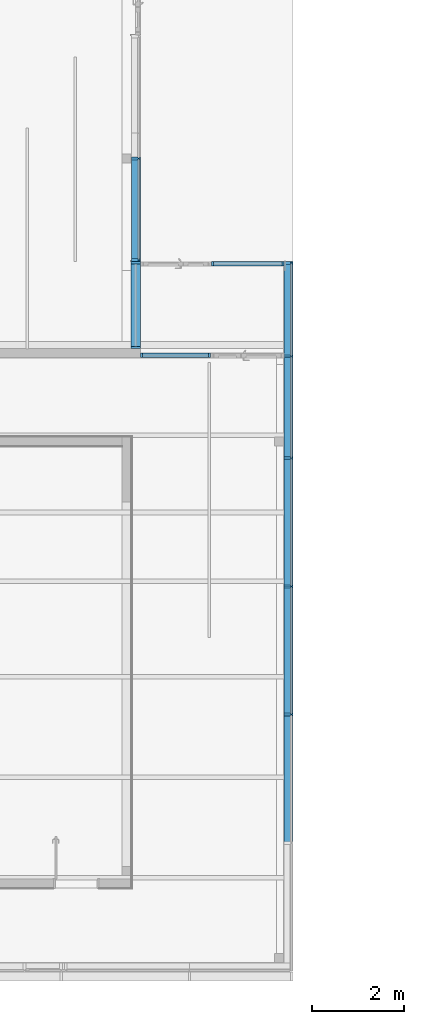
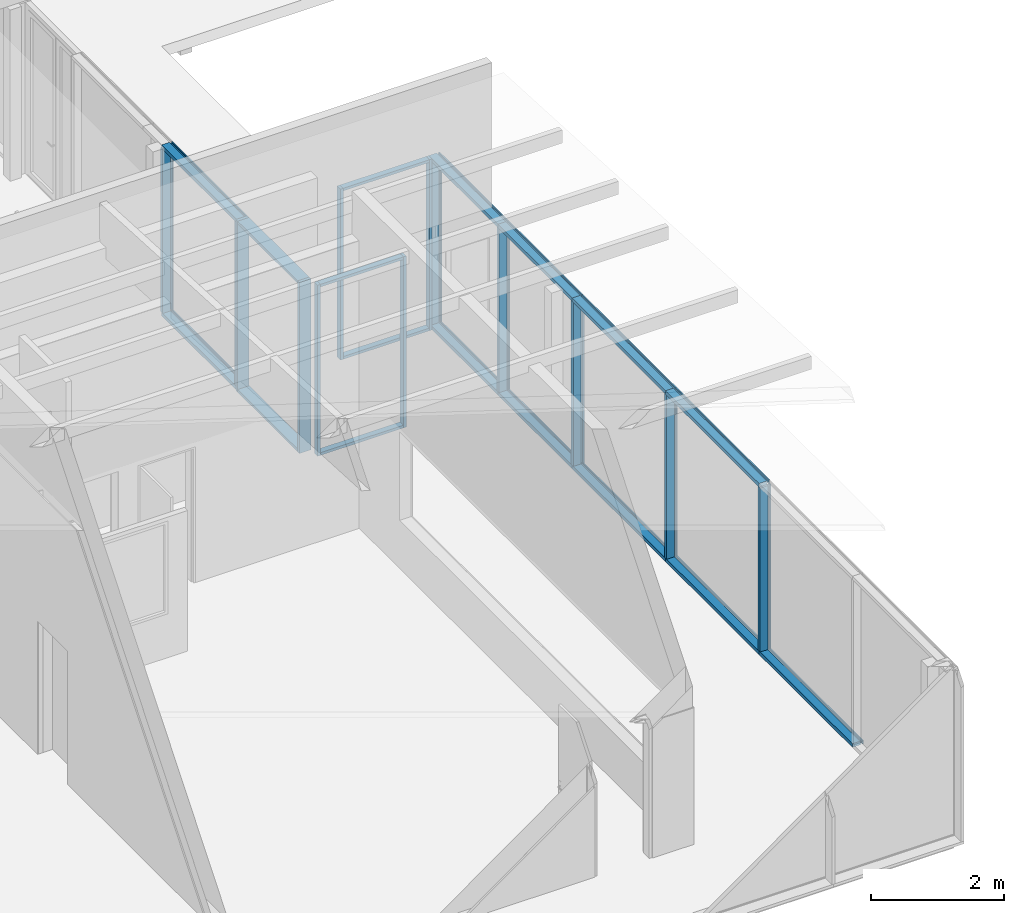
# One storey, part 9 of 240: 30 members, 5 elements without a shape of their own.
"""IFC2X3 building model written with IfcOpenShell, lengths in centimetres."""

from ifc_helpers import new_model, entity, si_unit, converted_unit, derived_unit, direction, frame, origin, origin_2d_with_axis, place, context, subcontext, project, spatial, polyline, rectangle, outline, extrude, source, transform, mapped, material, type_object, type_shapes, element, aggregate, save


model = new_model("IFC2X3")

# Units and contexts
model_context = context("Model", 3, precision=0.001, world=origin(), true_north=direction((6.12303176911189e-17, 1.0)))
body_context = subcontext(model_context, "Body", "Model", "MODEL_VIEW")
ifc_project = project(units=[si_unit("LENGTHUNIT", "METRE", prefix="CENTI"), si_unit("AREAUNIT", "SQUARE_METRE"), si_unit("VOLUMEUNIT", "CUBIC_METRE"), converted_unit("PLANEANGLEUNIT", "DEGREE", entity("IfcRatioMeasure", 0.0174532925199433), si_unit("PLANEANGLEUNIT", "RADIAN"), dimensions=[0, 0, 0, 0, 0, 0, 0]), si_unit("MASSUNIT", "GRAM", prefix="KILO"), derived_unit("MASSDENSITYUNIT", [(si_unit("MASSUNIT", "GRAM", prefix="KILO"), 1), (si_unit("LENGTHUNIT", "METRE"), -3)]), si_unit("TIMEUNIT", "SECOND"), si_unit("FREQUENCYUNIT", "HERTZ"), si_unit("THERMODYNAMICTEMPERATUREUNIT", "DEGREE_CELSIUS"), derived_unit("THERMALTRANSMITTANCEUNIT", [(si_unit("MASSUNIT", "GRAM", prefix="KILO"), 1), (si_unit("THERMODYNAMICTEMPERATUREUNIT", "KELVIN"), -1), (si_unit("TIMEUNIT", "SECOND"), -3)]), derived_unit("VOLUMETRICFLOWRATEUNIT", [(si_unit("LENGTHUNIT", "METRE"), 3), (si_unit("TIMEUNIT", "SECOND"), -1)]), si_unit("ELECTRICCURRENTUNIT", "AMPERE"), si_unit("ELECTRICVOLTAGEUNIT", "VOLT"), si_unit("POWERUNIT", "WATT"), si_unit("FORCEUNIT", "NEWTON", prefix="KILO"), si_unit("ILLUMINANCEUNIT", "LUX"), si_unit("LUMINOUSFLUXUNIT", "LUMEN"), si_unit("LUMINOUSINTENSITYUNIT", "CANDELA"), derived_unit("USERDEFINED", [(si_unit("MASSUNIT", "GRAM", prefix="KILO"), -1), (si_unit("LENGTHUNIT", "METRE"), -2), (si_unit("TIMEUNIT", "SECOND"), 3), (si_unit("LUMINOUSFLUXUNIT", "LUMEN"), 1)]), derived_unit("LINEARVELOCITYUNIT", [(si_unit("LENGTHUNIT", "METRE"), 1), (si_unit("TIMEUNIT", "SECOND"), -1)]), si_unit("PRESSUREUNIT", "PASCAL"), derived_unit("USERDEFINED", [(si_unit("LENGTHUNIT", "METRE"), -2), (si_unit("MASSUNIT", "GRAM", prefix="KILO"), 1), (si_unit("TIMEUNIT", "SECOND"), -2)])], contexts=[model_context])

# Site, building, storey
site_placement = place(None, frame((-2781.94577612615, 7442.24238424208, 0.0)))
site = spatial("IfcSite", under=ifc_project, at=site_placement, Name="Default", CompositionType="ELEMENT")
building_placement = place(site_placement, origin())
building = spatial("IfcBuilding", under=site, at=building_placement, CompositionType="ELEMENT")
storey_placement = place(building_placement, origin())
storey = spatial("IfcBuildingStorey", under=building, at=storey_placement, Name="N00 - COO", CompositionType="ELEMENT", Elevation=0.0)

# Curtain wall, member
curtain_wall_type_1 = type_object("IfcCurtainWallType", Name="Mur-rideau:07 - mur rideau trame 280 cm", PredefinedType="NOTDEFINED")
curtain_wall_1_placement = place(building_placement, origin())
curtain_wall_1 = element("IfcCurtainWall", 1, at=curtain_wall_1_placement, inside=storey, type_object=curtain_wall_type_1, Name="Mur-rideau:07 - mur rideau trame 280 cm", ObjectType="Mur-rideau:07 - mur rideau trame 280 cm")
ifc_material_1 = material(Name="Aluminium")
member_type_1 = type_object("IfcMemberType", Name="150 x 25mm Détails", PredefinedType="MEMBER")
shared_shape_1 = source(origin(), body_context, "Body", "SweptSolid", [
    extrude(outline(polyline([(-5.66666666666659, -3.25), (-3.66666666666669, -3.25), (-3.66666666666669, -0.868749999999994), (-0.166666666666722, -0.868749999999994), (-0.166666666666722, -3.25000000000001), (13.3333333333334, -3.24999999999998), (13.3333333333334, 3.25000000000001), (-0.166666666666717, 3.25000000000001), (-0.166666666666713, 0.868749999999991), (-3.66666666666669, 0.868749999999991), (-3.66666666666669, 3.24999999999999), (-5.66666666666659, 3.24999999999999), (-5.66666666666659, -3.25)])), frame((-3.24999999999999, -1.96666666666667, -300.0), z_axis=(0.0, 0.0, 1.0), x_axis=(0.0, -1.0, 0.0)), (0.0, 0.0, 1.0), 300.0),
])
type_shapes(member_type_1, [shared_shape_1])
member_1_placement = place(building_placement, frame((-8885.63218005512, -4015.07903364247, 306.5), z_axis=(0.0, 0.0, 1.0), x_axis=(0.0, -1.0, 0.0)))
member_1 = element("IfcMember", 2, at=member_1_placement, type_object=member_type_1, material=ifc_material_1, Name="Meneau rectangulaire:150 x 25mm Détails", ObjectType="Meneau rectangulaire:150 x 25mm Détails", context=body_context, shape_type="MappedRepresentation", body=[
    mapped(shared_shape_1, transform((0.0, 0.0, 0.0), scale=1.0)),
])

# Curtain wall, members
curtain_wall_2_placement = place(building_placement, origin())
curtain_wall_2 = element("IfcCurtainWall", 3, at=curtain_wall_2_placement, inside=storey, type_object=curtain_wall_type_1, Name="Mur-rideau:07 - mur rideau trame 280 cm", ObjectType="Mur-rideau:07 - mur rideau trame 280 cm")
member_type_2 = type_object("IfcMemberType", Name="150 x 25mm Détails", PredefinedType="MEMBER")
shared_shape_2 = source(origin(), body_context, "Body", "SweptSolid", [
    extrude(outline(polyline([(-5.66666666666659, -3.25), (-3.66666666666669, -3.25), (-3.66666666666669, -0.868749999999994), (-0.166666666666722, -0.868749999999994), (-0.166666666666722, -3.25000000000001), (13.3333333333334, -3.24999999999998), (13.3333333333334, 3.25000000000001), (-0.166666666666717, 3.25000000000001), (-0.166666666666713, 0.868749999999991), (-3.66666666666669, 0.868749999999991), (-3.66666666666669, 3.24999999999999), (-5.66666666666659, 3.24999999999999), (-5.66666666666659, -3.25)])), frame((-3.24999999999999, -1.96666666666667, -280.0), z_axis=(0.0, 0.0, 1.0), x_axis=(0.0, -1.0, 0.0)), (0.0, 0.0, 1.0), 280.0),
])
type_shapes(member_type_2, [shared_shape_2])
member_2_placement = place(building_placement, frame((-8552.68738089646, -5284.80173438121, 0.0), z_axis=(0.0, -1.0, 0.0), x_axis=(0.0, 0.0, -1.0)))
member_2 = element("IfcMember", 4, at=member_2_placement, type_object=member_type_2, material=ifc_material_1, Name="Meneau rectangulaire:150 x 25mm Détails", ObjectType="Meneau rectangulaire:150 x 25mm Détails", context=body_context, shape_type="MappedRepresentation", body=[
    mapped(shared_shape_2, transform((0.0, 0.0, 0.0), scale=1.0)),
])
member_3_placement = place(building_placement, frame((-8552.68738089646, -5004.80173438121, 0.0), z_axis=(0.0, -1.0, 0.0), x_axis=(0.0, 0.0, -1.0)))
member_3 = element("IfcMember", 5, at=member_3_placement, type_object=member_type_2, material=ifc_material_1, Name="Meneau rectangulaire:150 x 25mm Détails", ObjectType="Meneau rectangulaire:150 x 25mm Détails", context=body_context, shape_type="MappedRepresentation", body=[
    mapped(shared_shape_2, transform((0.0, 0.0, 0.0), scale=1.0)),
])
member_4_placement = place(building_placement, frame((-8552.68738089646, -4724.80173438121, 0.0), z_axis=(0.0, -1.0, 0.0), x_axis=(0.0, 0.0, -1.0)))
member_4 = element("IfcMember", 6, at=member_4_placement, type_object=member_type_2, material=ifc_material_1, Name="Meneau rectangulaire:150 x 25mm Détails", ObjectType="Meneau rectangulaire:150 x 25mm Détails", context=body_context, shape_type="MappedRepresentation", body=[
    mapped(shared_shape_2, transform((0.0, 0.0, 0.0), scale=1.0)),
])
member_type_3 = type_object("IfcMemberType", Name="150 x 25mm Détails", PredefinedType="MEMBER")
shared_shape_3 = source(origin(), body_context, "Body", "SweptSolid", [
    extrude(outline(polyline([(-5.6666666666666, -3.24999999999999), (-3.66666666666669, -3.24999999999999), (-3.66666666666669, -0.868749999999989), (-0.166666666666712, -0.868749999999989), (-0.166666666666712, -3.25000000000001), (13.3333333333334, -3.25000000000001), (13.3333333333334, 3.24999999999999), (-0.16666666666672, 3.24999999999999), (-0.16666666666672, 0.868749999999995), (-3.66666666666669, 0.868749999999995), (-3.66666666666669, 3.25), (-5.6666666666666, 3.25), (-5.6666666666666, -3.24999999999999)])), frame((-3.24999999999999, -1.96666666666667, -280.0), z_axis=(0.0, 0.0, 1.0), x_axis=(0.0, -1.0, 0.0)), (0.0, 0.0, 1.0), 280.0),
])
type_shapes(member_type_3, [shared_shape_3])
member_5_placement = place(building_placement, frame((-8552.68738089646, -4724.80173438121, 313.0), z_axis=(0.0, 1.0, 0.0), x_axis=(0.0, 0.0, 1.0)))
member_5 = element("IfcMember", 7, at=member_5_placement, type_object=member_type_3, material=ifc_material_1, Name="Meneau rectangulaire:150 x 25mm Détails", ObjectType="Meneau rectangulaire:150 x 25mm Détails", context=body_context, shape_type="MappedRepresentation", body=[
    mapped(shared_shape_3, transform((0.0, 0.0, 0.0), scale=1.0)),
])
member_6_placement = place(building_placement, frame((-8552.68738089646, -4444.80173438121, 313.0), z_axis=(0.0, 1.0, 0.0), x_axis=(0.0, 0.0, 1.0)))
member_6 = element("IfcMember", 8, at=member_6_placement, type_object=member_type_3, material=ifc_material_1, Name="Meneau rectangulaire:150 x 25mm Détails", ObjectType="Meneau rectangulaire:150 x 25mm Détails", context=body_context, shape_type="MappedRepresentation", body=[
    mapped(shared_shape_3, transform((0.0, 0.0, 0.0), scale=1.0)),
])

# Curtain wall, member
curtain_wall_type_2 = type_object("IfcCurtainWallType", PredefinedType="NOTDEFINED")
curtain_wall_3_placement = place(building_placement, origin())
curtain_wall_3 = element("IfcCurtainWall", 9, at=curtain_wall_3_placement, inside=storey, type_object=curtain_wall_type_2)
ifc_material_2 = material(Name="Plastique, blanc opaque")
member_type_4 = type_object("IfcMemberType", Name="100 x 50mm", PredefinedType="MEMBER")
shared_shape_4 = source(origin(), body_context, "Body", "SweptSolid", [
    extrude(rectangle(XDim=10.0, YDim=5.0, at=origin_2d_with_axis()), frame((-2.5, 0.0, -313.0), z_axis=(0.0, 0.0, 1.0), x_axis=(0.0, -1.0, 0.0)), (0.0, 0.0, 1.0), 313.0),
])
type_shapes(member_type_4, [shared_shape_4])
member_7_placement = place(building_placement, frame((-8728.48738089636, -4220.50027342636, 0.0), z_axis=(0.0, 0.0, -1.0), x_axis=(1.0, 0.0, 0.0)))
member_7 = element("IfcMember", 10, at=member_7_placement, type_object=member_type_4, material=ifc_material_2, Name="Meneau rectangulaire:100 x 50mm", ObjectType="Meneau rectangulaire:100 x 50mm", context=body_context, shape_type="MappedRepresentation", body=[
    mapped(shared_shape_4, transform((0.0, 0.0, 0.0), scale=1.0)),
])

curtain_wall_4_placement = place(storey_placement, origin())
curtain_wall_4 = element("IfcCurtainWall", 11, at=curtain_wall_4_placement, inside=storey, type_object=curtain_wall_type_2)
member_8_placement = place(storey_placement, frame((-8567.98738089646, -4020.07903364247, 0.0), z_axis=(0.0, 0.0, -1.0), x_axis=(1.0, 0.0, 0.0)))
member_8 = element("IfcMember", 12, at=member_8_placement, type_object=member_type_4, material=ifc_material_2, Name="Meneau rectangulaire:100 x 50mm", ObjectType="Meneau rectangulaire:100 x 50mm", context=body_context, shape_type="MappedRepresentation", body=[
    mapped(shared_shape_4, transform((0.0, 0.0, 0.0), scale=1.0)),
])

# Member
member_type_5 = type_object("IfcMemberType", Name="100 x 50mm", PredefinedType="MEMBER")
shared_shape_5 = source(origin(), body_context, "Body", "SweptSolid", [
    extrude(rectangle(XDim=10.0, YDim=5.0, at=origin_2d_with_axis()), frame((-2.5, 0.0, -313.0), z_axis=(0.0, 0.0, 1.0), x_axis=(0.0, -1.0, 0.0)), (0.0, 0.0, 1.0), 313.0),
])
type_shapes(member_type_5, [shared_shape_5])
member_9_placement = place(building_placement, frame((-8881.98738089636, -4220.50027342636, 313.0), z_axis=(0.0, 0.0, 1.0), x_axis=(-1.0, 0.0, 0.0)))
member_9 = element("IfcMember", 13, at=member_9_placement, type_object=member_type_5, material=ifc_material_2, Name="Meneau rectangulaire:100 x 50mm", ObjectType="Meneau rectangulaire:100 x 50mm", context=body_context, shape_type="MappedRepresentation", body=[
    mapped(shared_shape_5, transform((0.0, 0.0, 0.0), scale=1.0)),
])

member_10_placement = place(storey_placement, frame((-8726.93218005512, -4020.07903364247, 313.0), z_axis=(0.0, 0.0, 1.0), x_axis=(-1.0, 0.0, 0.0)))
member_10 = element("IfcMember", 14, at=member_10_placement, type_object=member_type_5, material=ifc_material_2, Name="Meneau rectangulaire:100 x 50mm", ObjectType="Meneau rectangulaire:100 x 50mm", context=body_context, shape_type="MappedRepresentation", body=[
    mapped(shared_shape_5, transform((0.0, 0.0, 0.0), scale=1.0)),
])

member_type_6 = type_object("IfcMemberType", Name="100 x 50mm", PredefinedType="MEMBER")
shared_shape_6 = source(origin(), body_context, "Body", "SweptSolid", [
    extrude(rectangle(XDim=10.0, YDim=5.0, at=origin_2d_with_axis()), frame((-2.5, 0.0, -143.5), z_axis=(0.0, 0.0, 1.0), x_axis=(0.0, -1.0, 0.0)), (0.0, 0.0, 1.0), 143.5),
])
type_shapes(member_type_6, [shared_shape_6])
member_11_placement = place(building_placement, frame((-8733.48738089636, -4220.50027342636, 313.0), z_axis=(1.0, 0.0, 0.0), x_axis=(0.0, 0.0, 1.0)))
member_11 = element("IfcMember", 15, at=member_11_placement, type_object=member_type_6, material=ifc_material_2, Name="Meneau rectangulaire:100 x 50mm", ObjectType="Meneau rectangulaire:100 x 50mm", context=body_context, shape_type="MappedRepresentation", body=[
    mapped(shared_shape_6, transform((0.0, 0.0, 0.0), scale=1.0)),
])

member_type_7 = type_object("IfcMemberType", Name="100 x 50mm", PredefinedType="MEMBER")
shared_shape_7 = source(origin(), body_context, "Body", "SweptSolid", [
    extrude(rectangle(XDim=10.0, YDim=5.0, at=origin_2d_with_axis()), frame((-2.5, 0.0, -143.499999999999), z_axis=(0.0, 0.0, 1.0), x_axis=(0.0, -1.0, 0.0)), (0.0, 0.0, 1.0), 143.5),
])
type_shapes(member_type_7, [shared_shape_7])
member_12_placement = place(building_placement, frame((-8876.98738089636, -4220.50027342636, 0.0), z_axis=(-1.0, 0.0, 0.0), x_axis=(0.0, 0.0, -1.0)))
member_12 = element("IfcMember", 16, at=member_12_placement, type_object=member_type_7, material=ifc_material_2, Name="Meneau rectangulaire:100 x 50mm", ObjectType="Meneau rectangulaire:100 x 50mm", context=body_context, shape_type="MappedRepresentation", body=[
    mapped(shared_shape_7, transform((0.0, 0.0, 0.0), scale=1.0)),
])

aggregate(curtain_wall_3, [member_11, member_12, member_7, member_9])

# Curtain wall, members
curtain_wall_type_3 = type_object("IfcCurtainWallType", PredefinedType="NOTDEFINED")
curtain_wall_5_placement = place(building_placement, origin())
curtain_wall_5 = element("IfcCurtainWall", 17, at=curtain_wall_5_placement, inside=storey, type_object=curtain_wall_type_3)
member_type_8 = type_object("IfcMemberType", Name="Epine nord (200x50 mm)", PredefinedType="MEMBER")
shared_shape_8 = source(origin(), body_context, "Body", "SweptSolid", [
    extrude(rectangle(XDim=20.0, YDim=5.0, at=origin_2d_with_axis()), frame((-2.5, 0.0, -180.221239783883), z_axis=(0.0, 0.0, 1.0), x_axis=(0.0, -1.0, 0.0)), (0.0, 0.0, 1.0), 180.221239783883),
])
type_shapes(member_type_8, [shared_shape_8])
member_13_placement = place(building_placement, frame((-8891.98738089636, -4020.27903364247, 313.0), z_axis=(0.0, 1.0, 0.0), x_axis=(0.0, 0.0, 1.0)))
member_13 = element("IfcMember", 18, at=member_13_placement, type_object=member_type_8, material=ifc_material_1, Name="Meneau rectangulaire:Epine nord (200x50 mm)", ObjectType="Meneau rectangulaire:Epine nord (200x50 mm)", context=body_context, shape_type="MappedRepresentation", body=[
    mapped(shared_shape_8, transform((0.0, 0.0, 0.0), scale=1.0)),
])
member_type_9 = type_object("IfcMemberType", Name="Epine nord (200x50 mm)", PredefinedType="MEMBER")
shared_shape_9 = source(origin(), body_context, "Body", "SweptSolid", [
    extrude(rectangle(XDim=20.0, YDim=5.0, at=origin_2d_with_axis()), frame((-2.5, 0.0, -180.221239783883), z_axis=(0.0, 0.0, 1.0), x_axis=(0.0, -1.0, 0.0)), (0.0, 0.0, 1.0), 180.221239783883),
])
type_shapes(member_type_9, [shared_shape_9])
member_14_placement = place(building_placement, frame((-8891.98738089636, -4200.50027342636, 0.0), z_axis=(0.0, -1.0, 0.0), x_axis=(0.0, 0.0, -1.0)))
member_14 = element("IfcMember", 19, at=member_14_placement, type_object=member_type_9, material=ifc_material_1, Name="Meneau rectangulaire:Epine nord (200x50 mm)", ObjectType="Meneau rectangulaire:Epine nord (200x50 mm)", context=body_context, shape_type="MappedRepresentation", body=[
    mapped(shared_shape_9, transform((0.0, 0.0, 0.0), scale=1.0)),
])
member_type_10 = type_object("IfcMemberType", Name="Epine nord (200x50 mm)", PredefinedType="MEMBER")
shared_shape_10 = source(origin(), body_context, "Body", "SweptSolid", [
    extrude(rectangle(XDim=20.0, YDim=5.0, at=origin_2d_with_axis()), frame((-2.5, 0.0, -313.0), z_axis=(0.0, 0.0, 1.0), x_axis=(0.0, -1.0, 0.0)), (0.0, 0.0, 1.0), 313.0),
])
type_shapes(member_type_10, [shared_shape_10])
member_15_placement = place(building_placement, frame((-8891.98738089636, -4015.27903364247, 0.0), z_axis=(0.0, 0.0, -1.0), x_axis=(0.0, 1.0, 0.0)))
member_15 = element("IfcMember", 20, at=member_15_placement, type_object=member_type_10, material=ifc_material_1, Name="Meneau rectangulaire:Epine nord (200x50 mm)", ObjectType="Meneau rectangulaire:Epine nord (200x50 mm)", context=body_context, shape_type="MappedRepresentation", body=[
    mapped(shared_shape_10, transform((0.0, 0.0, 0.0), scale=1.0)),
])
member_type_11 = type_object("IfcMemberType", Name="Epine nord (200x50 mm)", PredefinedType="MEMBER")
shared_shape_11 = source(origin(), body_context, "Body", "SweptSolid", [
    extrude(rectangle(XDim=20.0, YDim=5.0, at=origin_2d_with_axis()), frame((-2.5, 0.0, -313.0), z_axis=(0.0, 0.0, 1.0), x_axis=(0.0, -1.0, 0.0)), (0.0, 0.0, 1.0), 313.0),
])
type_shapes(member_type_11, [shared_shape_11])
member_16_placement = place(building_placement, frame((-8891.98738089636, -4205.50027342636, 313.0), z_axis=(0.0, 0.0, 1.0), x_axis=(0.0, -1.0, 0.0)))
member_16 = element("IfcMember", 21, at=member_16_placement, type_object=member_type_11, material=ifc_material_1, Name="Meneau rectangulaire:Epine nord (200x50 mm)", ObjectType="Meneau rectangulaire:Epine nord (200x50 mm)", context=body_context, shape_type="MappedRepresentation", body=[
    mapped(shared_shape_11, transform((0.0, 0.0, 0.0), scale=1.0)),
])
aggregate(curtain_wall_5, [member_13, member_14, member_15, member_16])

# Member
member_type_12 = type_object("IfcMemberType", Name="150 x 25mm Détails", PredefinedType="MEMBER")
shared_shape_12 = source(origin(), body_context, "Body", "SweptSolid", [
    extrude(outline(polyline([(-5.6666666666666, -3.24999999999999), (-3.66666666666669, -3.24999999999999), (-3.66666666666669, -0.868749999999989), (-0.166666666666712, -0.868749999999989), (-0.166666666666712, -3.25000000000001), (13.3333333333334, -3.25000000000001), (13.3333333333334, 3.24999999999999), (-0.16666666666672, 3.24999999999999), (-0.16666666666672, 0.868749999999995), (-3.66666666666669, 0.868749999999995), (-3.66666666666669, 3.25), (-5.6666666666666, 3.25), (-5.6666666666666, -3.24999999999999)])), frame((-3.24999999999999, -1.96666666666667, -207.171239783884), z_axis=(0.0, 0.0, 1.0), x_axis=(0.0, -1.0, 0.0)), (0.0, 0.0, 1.0), 207.171239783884),
])
type_shapes(member_type_12, [shared_shape_12])
member_17_placement = place(building_placement, frame((-8552.68738089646, -4015.07903364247, 313.0), z_axis=(0.0, 1.0, 0.0), x_axis=(0.0, 0.0, 1.0)))
member_17 = element("IfcMember", 22, at=member_17_placement, type_object=member_type_12, material=ifc_material_1, Name="Meneau rectangulaire:150 x 25mm Détails", ObjectType="Meneau rectangulaire:150 x 25mm Détails", context=body_context, shape_type="MappedRepresentation", body=[
    mapped(shared_shape_12, transform((0.0, 0.0, 0.0), scale=1.0)),
])

member_type_13 = type_object("IfcMemberType", Name="150 x 25mm Détails", PredefinedType="MEMBER")
shared_shape_13 = source(origin(), body_context, "Body", "SweptSolid", [
    extrude(outline(polyline([(-5.6666666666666, -3.24999999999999), (-3.66666666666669, -3.24999999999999), (-3.66666666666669, -0.868749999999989), (-0.166666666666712, -0.868749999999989), (-0.166666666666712, -3.25000000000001), (13.3333333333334, -3.25000000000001), (13.3333333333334, 3.24999999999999), (-0.16666666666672, 3.24999999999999), (-0.16666666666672, 0.868749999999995), (-3.66666666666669, 0.868749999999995), (-3.66666666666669, 3.25), (-5.6666666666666, 3.25), (-5.6666666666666, -3.24999999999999)])), frame((-3.24999999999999, -1.96666666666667, -222.551460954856), z_axis=(0.0, 0.0, 1.0), x_axis=(0.0, -1.0, 0.0)), (0.0, 0.0, 1.0), 222.551460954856),
])
type_shapes(member_type_13, [shared_shape_13])
member_18_placement = place(building_placement, frame((-8552.68738089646, -4222.25027342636, 313.0), z_axis=(0.0, 1.0, 0.0), x_axis=(0.0, 0.0, 1.0)))
member_18 = element("IfcMember", 23, at=member_18_placement, type_object=member_type_13, material=ifc_material_1, Name="Meneau rectangulaire:150 x 25mm Détails", ObjectType="Meneau rectangulaire:150 x 25mm Détails", context=body_context, shape_type="MappedRepresentation", body=[
    mapped(shared_shape_13, transform((0.0, 0.0, 0.0), scale=1.0)),
])

member_type_14 = type_object("IfcMemberType", Name="150 x 25mm Détails", PredefinedType="MEMBER")
shared_shape_14 = source(origin(), body_context, "Body", "SweptSolid", [
    extrude(outline(polyline([(-5.66666666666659, -3.24999999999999), (-3.66666666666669, -3.24999999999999), (-3.66666666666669, -0.86874999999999), (-0.166666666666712, -0.86874999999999), (-0.166666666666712, -3.25000000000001), (13.3333333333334, -3.25000000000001), (13.3333333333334, 3.24999999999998), (-0.166666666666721, 3.24999999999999), (-0.166666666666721, 0.868749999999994), (-3.66666666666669, 0.868749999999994), (-3.66666666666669, 3.25), (-5.66666666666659, 3.25), (-5.66666666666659, -3.24999999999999)])), frame((0.0, -1.96666666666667, -300.0), z_axis=(0.0, 0.0, 1.0), x_axis=(0.0, -1.0, 0.0)), (0.0, 0.0, 1.0), 300.0),
])
type_shapes(member_type_14, [shared_shape_14])
member_19_placement = place(building_placement, frame((-8552.68738089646, -5004.80173438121, 6.49999999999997), z_axis=(0.0, 0.0, -1.0), x_axis=(0.0, 1.0, 0.0)))
member_19 = element("IfcMember", 24, at=member_19_placement, type_object=member_type_14, material=ifc_material_1, Name="Meneau rectangulaire:150 x 25mm Détails", ObjectType="Meneau rectangulaire:150 x 25mm Détails", context=body_context, shape_type="MappedRepresentation", body=[
    mapped(shared_shape_14, transform((0.0, 0.0, 0.0), scale=1.0)),
])

member_20_placement = place(building_placement, frame((-8552.68738089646, -4724.80173438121, 6.49999999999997), z_axis=(0.0, 0.0, -1.0), x_axis=(0.0, 1.0, 0.0)))
member_20 = element("IfcMember", 25, at=member_20_placement, type_object=member_type_14, material=ifc_material_1, Name="Meneau rectangulaire:150 x 25mm Détails", ObjectType="Meneau rectangulaire:150 x 25mm Détails", context=body_context, shape_type="MappedRepresentation", body=[
    mapped(shared_shape_14, transform((0.0, 0.0, 0.0), scale=1.0)),
])

member_21_placement = place(building_placement, frame((-8552.68738089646, -4444.80173438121, 6.49999999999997), z_axis=(0.0, 0.0, -1.0), x_axis=(0.0, 1.0, 0.0)))
member_21 = element("IfcMember", 26, at=member_21_placement, type_object=member_type_14, material=ifc_material_1, Name="Meneau rectangulaire:150 x 25mm Détails", ObjectType="Meneau rectangulaire:150 x 25mm Détails", context=body_context, shape_type="MappedRepresentation", body=[
    mapped(shared_shape_14, transform((0.0, 0.0, 0.0), scale=1.0)),
])

member_22_placement = place(building_placement, frame((-8552.68738089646, -4222.25027342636, 6.49999999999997), z_axis=(0.0, 0.0, -1.0), x_axis=(0.0, 1.0, 0.0)))
member_22 = element("IfcMember", 27, at=member_22_placement, type_object=member_type_14, material=ifc_material_1, Name="Meneau rectangulaire:150 x 25mm Détails", ObjectType="Meneau rectangulaire:150 x 25mm Détails", context=body_context, shape_type="MappedRepresentation", body=[
    mapped(shared_shape_14, transform((0.0, 0.0, 0.0), scale=1.0)),
])

member_23_placement = place(building_placement, frame((-8885.63218005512, -3790.71966115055, 6.49999999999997), z_axis=(0.0, 0.0, -1.0), x_axis=(0.0, 1.0, 0.0)))
member_23 = element("IfcMember", 28, at=member_23_placement, type_object=member_type_14, material=ifc_material_1, Name="Meneau rectangulaire:150 x 25mm Détails", ObjectType="Meneau rectangulaire:150 x 25mm Détails", context=body_context, shape_type="MappedRepresentation", body=[
    mapped(shared_shape_14, transform((0.0, 0.0, 0.0), scale=1.0)),
])

member_type_15 = type_object("IfcMemberType", Name="150 x 25mm Détails", PredefinedType="MEMBER")
shared_shape_15 = source(origin(), body_context, "Body", "SweptSolid", [
    extrude(outline(polyline([(-5.66666666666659, -3.25), (-3.66666666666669, -3.25), (-3.66666666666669, -0.868749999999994), (-0.166666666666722, -0.868749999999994), (-0.166666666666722, -3.25000000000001), (13.3333333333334, -3.24999999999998), (13.3333333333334, 3.25000000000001), (-0.166666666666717, 3.25000000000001), (-0.166666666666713, 0.868749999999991), (-3.66666666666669, 0.868749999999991), (-3.66666666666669, 3.24999999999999), (-5.66666666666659, 3.24999999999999), (-5.66666666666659, -3.25)])), frame((-3.24999999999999, -1.96666666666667, -222.551460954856), z_axis=(0.0, 0.0, 1.0), x_axis=(0.0, -1.0, 0.0)), (0.0, 0.0, 1.0), 222.551460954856),
])
type_shapes(member_type_15, [shared_shape_15])
member_24_placement = place(building_placement, frame((-8552.68738089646, -4444.80173438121, 0.0), z_axis=(0.0, -1.0, 0.0), x_axis=(0.0, 0.0, -1.0)))
member_24 = element("IfcMember", 29, at=member_24_placement, type_object=member_type_15, material=ifc_material_1, Name="Meneau rectangulaire:150 x 25mm Détails", ObjectType="Meneau rectangulaire:150 x 25mm Détails", context=body_context, shape_type="MappedRepresentation", body=[
    mapped(shared_shape_15, transform((0.0, 0.0, 0.0), scale=1.0)),
])

member_type_16 = type_object("IfcMemberType", Name="150 x 25mm Détails", PredefinedType="MEMBER")
shared_shape_16 = source(origin(), body_context, "Body", "SweptSolid", [
    extrude(outline(polyline([(-5.66666666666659, -3.25), (-3.66666666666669, -3.25), (-3.66666666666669, -0.868749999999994), (-0.166666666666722, -0.868749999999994), (-0.166666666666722, -3.25000000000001), (13.3333333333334, -3.24999999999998), (13.3333333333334, 3.25000000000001), (-0.166666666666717, 3.25000000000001), (-0.166666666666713, 0.868749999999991), (-3.66666666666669, 0.868749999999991), (-3.66666666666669, 3.24999999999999), (-5.66666666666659, 3.24999999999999), (-5.66666666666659, -3.25)])), frame((-3.24999999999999, -1.96666666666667, -207.171239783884), z_axis=(0.0, 0.0, 1.0), x_axis=(0.0, -1.0, 0.0)), (0.0, 0.0, 1.0), 207.171239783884),
])
type_shapes(member_type_16, [shared_shape_16])
member_25_placement = place(building_placement, frame((-8552.68738089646, -4222.25027342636, 0.0), z_axis=(0.0, -1.0, 0.0), x_axis=(0.0, 0.0, -1.0)))
member_25 = element("IfcMember", 30, at=member_25_placement, type_object=member_type_16, material=ifc_material_1, Name="Meneau rectangulaire:150 x 25mm Détails", ObjectType="Meneau rectangulaire:150 x 25mm Détails", context=body_context, shape_type="MappedRepresentation", body=[
    mapped(shared_shape_16, transform((0.0, 0.0, 0.0), scale=1.0)),
])

member_type_17 = type_object("IfcMemberType", Name="150 x 25mm Détails", PredefinedType="MEMBER")
shared_shape_17 = source(origin(), body_context, "Body", "SweptSolid", [
    extrude(outline(polyline([(-5.66666666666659, -3.24999999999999), (-3.66666666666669, -3.24999999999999), (-3.66666666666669, -0.868749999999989), (-0.166666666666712, -0.868749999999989), (-0.166666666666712, -3.25000000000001), (13.3333333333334, -3.25000000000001), (13.3333333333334, 3.24999999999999), (-0.166666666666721, 3.24999999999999), (-0.166666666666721, 0.868749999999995), (-3.66666666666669, 0.868749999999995), (-3.66666666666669, 3.25), (-5.66666666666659, 3.25), (-5.66666666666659, -3.24999999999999)])), frame((-3.24999999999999, -1.96666666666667, -300.0), z_axis=(0.0, 0.0, 1.0), x_axis=(0.0, -1.0, 0.0)), (0.0, 0.0, 1.0), 300.0),
])
type_shapes(member_type_17, [shared_shape_17])
member_26_placement = place(building_placement, frame((-8552.68738089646, -4015.07903364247, 6.49999999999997), z_axis=(0.0, 0.0, -1.0), x_axis=(0.0, 1.0, 0.0)))
member_26 = element("IfcMember", 31, at=member_26_placement, type_object=member_type_17, material=ifc_material_1, Name="Meneau rectangulaire:150 x 25mm Détails", ObjectType="Meneau rectangulaire:150 x 25mm Détails", context=body_context, shape_type="MappedRepresentation", body=[
    mapped(shared_shape_17, transform((0.0, 0.0, 0.0), scale=1.0)),
])

aggregate(curtain_wall_2, [member_17, member_5, member_6, member_18, member_19, member_20, member_21, member_22, member_2, member_3, member_4, member_24, member_25, member_26])

member_type_18 = type_object("IfcMemberType", Name="150 x 25mm Détails", PredefinedType="MEMBER")
shared_shape_18 = source(origin(), body_context, "Body", "SweptSolid", [
    extrude(outline(polyline([(-5.66666666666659, -3.25), (-3.66666666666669, -3.25), (-3.66666666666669, -0.868749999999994), (-0.166666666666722, -0.868749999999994), (-0.166666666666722, -3.25000000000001), (13.3333333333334, -3.24999999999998), (13.3333333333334, 3.25000000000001), (-0.166666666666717, 3.25000000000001), (-0.166666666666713, 0.868749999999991), (-3.66666666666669, 0.868749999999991), (-3.66666666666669, 3.24999999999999), (-5.66666666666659, 3.24999999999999), (-5.66666666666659, -3.25)])), frame((-3.24999999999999, -1.96666666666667, -224.35937249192), z_axis=(0.0, 0.0, 1.0), x_axis=(0.0, -1.0, 0.0)), (0.0, 0.0, 1.0), 224.35937249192),
])
type_shapes(member_type_18, [shared_shape_18])
member_27_placement = place(building_placement, frame((-8885.63218005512, -4015.07903364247, 0.0), z_axis=(0.0, -1.0, 0.0), x_axis=(0.0, 0.0, -1.0)))
member_27 = element("IfcMember", 32, at=member_27_placement, type_object=member_type_18, material=ifc_material_1, Name="Meneau rectangulaire:150 x 25mm Détails", ObjectType="Meneau rectangulaire:150 x 25mm Détails", context=body_context, shape_type="MappedRepresentation", body=[
    mapped(shared_shape_18, transform((0.0, 0.0, 0.0), scale=1.0)),
])

member_type_19 = type_object("IfcMemberType", Name="150 x 25mm Détails", PredefinedType="MEMBER")
shared_shape_19 = source(origin(), body_context, "Body", "SweptSolid", [
    extrude(outline(polyline([(-5.6666666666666, -3.24999999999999), (-3.66666666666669, -3.24999999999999), (-3.66666666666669, -0.868749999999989), (-0.166666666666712, -0.868749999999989), (-0.166666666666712, -3.25000000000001), (13.3333333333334, -3.25000000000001), (13.3333333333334, 3.24999999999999), (-0.16666666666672, 3.24999999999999), (-0.16666666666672, 0.868749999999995), (-3.66666666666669, 0.868749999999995), (-3.66666666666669, 3.25), (-5.6666666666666, 3.25), (-5.6666666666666, -3.24999999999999)])), frame((-3.24999999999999, -1.96666666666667, -224.35937249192), z_axis=(0.0, 0.0, 1.0), x_axis=(0.0, -1.0, 0.0)), (0.0, 0.0, 1.0), 224.35937249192),
])
type_shapes(member_type_19, [shared_shape_19])
member_28_placement = place(building_placement, frame((-8885.63218005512, -3790.71966115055, 313.0), z_axis=(0.0, 1.0, 0.0), x_axis=(0.0, 0.0, 1.0)))
member_28 = element("IfcMember", 33, at=member_28_placement, type_object=member_type_19, material=ifc_material_1, Name="Meneau rectangulaire:150 x 25mm Détails", ObjectType="Meneau rectangulaire:150 x 25mm Détails", context=body_context, shape_type="MappedRepresentation", body=[
    mapped(shared_shape_19, transform((0.0, 0.0, 0.0), scale=1.0)),
])

aggregate(curtain_wall_1, [member_27, member_1, member_28, member_23])

member_type_20 = type_object("IfcMemberType", Name="100 x 50mm", PredefinedType="MEMBER")
shared_shape_20 = source(origin(), body_context, "Body", "SweptSolid", [
    extrude(rectangle(XDim=10.0, YDim=5.0, at=origin_2d_with_axis()), frame((-2.5, 0.0, -148.944799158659), z_axis=(0.0, 0.0, 1.0), x_axis=(0.0, -1.0, 0.0)), (0.0, 0.0, 1.0), 148.944799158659),
])
type_shapes(member_type_20, [shared_shape_20])
member_29_placement = place(storey_placement, frame((-8572.98738089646, -4020.07903364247, 313.0), z_axis=(1.0, 0.0, 0.0), x_axis=(0.0, 0.0, 1.0)))
member_29 = element("IfcMember", 34, at=member_29_placement, type_object=member_type_20, material=ifc_material_2, Name="Meneau rectangulaire:100 x 50mm", ObjectType="Meneau rectangulaire:100 x 50mm", context=body_context, shape_type="MappedRepresentation", body=[
    mapped(shared_shape_20, transform((0.0, 0.0, 0.0), scale=1.0)),
])

member_type_21 = type_object("IfcMemberType", Name="100 x 50mm", PredefinedType="MEMBER")
shared_shape_21 = source(origin(), body_context, "Body", "SweptSolid", [
    extrude(rectangle(XDim=10.0, YDim=5.0, at=origin_2d_with_axis()), frame((-2.5, 0.0, -148.944799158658), z_axis=(0.0, 0.0, 1.0), x_axis=(0.0, -1.0, 0.0)), (0.0, 0.0, 1.0), 148.944799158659),
])
type_shapes(member_type_21, [shared_shape_21])
member_30_placement = place(storey_placement, frame((-8721.93218005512, -4020.07903364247, 0.0), z_axis=(-1.0, 0.0, 0.0), x_axis=(0.0, 0.0, -1.0)))
member_30 = element("IfcMember", 35, at=member_30_placement, type_object=member_type_21, material=ifc_material_2, Name="Meneau rectangulaire:100 x 50mm", ObjectType="Meneau rectangulaire:100 x 50mm", context=body_context, shape_type="MappedRepresentation", body=[
    mapped(shared_shape_21, transform((0.0, 0.0, 0.0), scale=1.0)),
])

aggregate(curtain_wall_4, [member_29, member_30, member_8, member_10])

save(model, "model.ifc")
